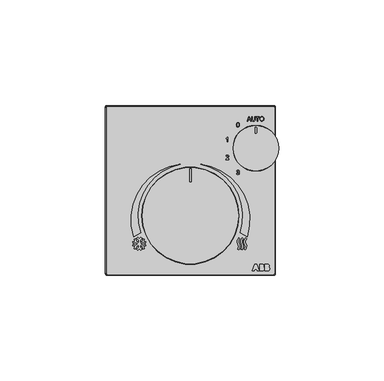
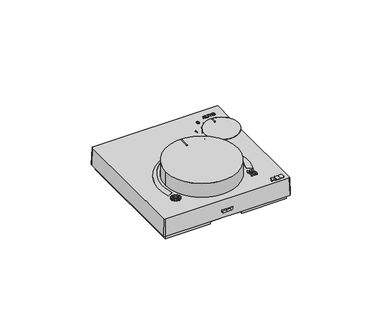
"""IFC4 building model written with IfcOpenShell, lengths in millimetres: proxy geometry, HC_Control Unit_MEPcontent_ABB_ClimaEco Sensors_HVAC-control element_INT-EN : SAF-A1.0.1-24."""

from ifc_helpers import new_model, si_unit, point, frame, frame_2d, origin, place, context, project, spatial, polyline, circle_curve, ellipse_curve, trimmed, segment, composite_curve, outline, extrude, source, transform, mapped, element, save
from ifc_brep_helpers import plane_surface, cylinder_surface, revolved_surface, extruded_surface, advanced_brep


def mechanical_equipment_c57d0791(model_context):
    return source(origin(), model_context, "Body", "SolidModel", [
        extrude(outline(polyline([(30.1395374, -38.0874147), (29.3411068, -38.0874147), (30.4548671, -35.0273837), (31.4091799, -35.0273837), (32.5229401, -38.0874147), (31.7245096, -38.0874147), (31.4567912, -37.3518646), (30.4072557, -37.3518646), (30.1395374, -38.0874147)])), frame((0.0, 0.0, 15.0), z_axis=(0.0, 0.0, 1.0), x_axis=(1.0, 0.0, 0.0)), (0.0, 0.0, 1.0), 0.2),
        extrude(outline(composite_curve([segment(polyline([(32.7806659, -38.0874147), (32.7806659, -35.0273837), (34.1912375, -35.0273837)]), True, "CONTINUOUS"), segment(trimmed(circle_curve(frame_2d((34.1114902, -35.7178804)), 0.6950865), [point((34.1912375, -35.0273837))], [point((34.4548715, -36.3222268))], False, "CARTESIAN"), True, "CONTINUOUS"), segment(trimmed(circle_curve(frame_2d((34.1290819, -37.1923919)), 0.9291534), [point((34.4548715, -36.3222268))], [point((34.3786016, -38.0874147))], False, "CARTESIAN"), True, "CONTINUOUS"), segment(polyline([(34.3786016, -38.0874147), (32.7806659, -38.0874147)]), True, "CONTINUOUS")], self_intersect=False)), frame((0.0, 0.0, 15.0), z_axis=(0.0, 0.0, 1.0), x_axis=(1.0, 0.0, 0.0)), (0.0, 0.0, 1.0), 0.2),
        extrude(outline(composite_curve([segment(polyline([(35.2868063, -38.0874147), (35.2868063, -35.0273837), (36.6973778, -35.0273837)]), True, "CONTINUOUS"), segment(trimmed(circle_curve(frame_2d((36.6176306, -35.7178804)), 0.6950865), [point((36.6973778, -35.0273837))], [point((36.9610118, -36.3222268))], False, "CARTESIAN"), True, "CONTINUOUS"), segment(trimmed(circle_curve(frame_2d((36.6352223, -37.1923919)), 0.9291534), [point((36.9610118, -36.3222268))], [point((36.884742, -38.0874147))], False, "CARTESIAN"), True, "CONTINUOUS"), segment(polyline([(36.884742, -38.0874147), (35.2868063, -38.0874147)]), True, "CONTINUOUS")], self_intersect=False)), frame((0.0, 0.0, 15.0), z_axis=(0.0, 0.0, 1.0), x_axis=(1.0, 0.0, 0.0)), (0.0, 0.0, 1.0), 0.2),
        advanced_brep(
        [(-32.2072575, 32.2146452, 2.2270347), (-33.7072575, 32.2146452, 2.2270347), (-30.7072575, 32.2146452, 2.2270347), (-33.7072575, 32.2146452, 0.5), (-30.7072575, 32.2146452, 0.5), (-32.2072575, 32.2146452, -0.0008148)],
        [
            (0, 1),
            (1, 2, circle_curve(frame((-32.2072575, 32.2146452, 2.2270347), z_axis=(0.0, 0.0, 1.0), x_axis=(-1.0, 0.0, 0.0)), 1.5)),
            (2, 0),
            (2, 1, circle_curve(frame((-32.2072575, 32.2146452, 2.2270347), z_axis=(0.0, 0.0, 1.0), x_axis=(-1.0, 0.0, 0.0)), 1.5)),
            (1, 3),
            (3, 4, circle_curve(frame((-32.2072575, 32.2146452, 0.5), z_axis=(0.0, 0.0, 1.0), x_axis=(-1.0, 0.0, 0.0)), 1.5)),
            (4, 2),
            (4, 3, circle_curve(frame((-32.2072575, 32.2146452, 0.5), z_axis=(0.0, 0.0, 1.0), x_axis=(-1.0, 0.0, 0.0)), 1.5)),
            (3, 5, circle_curve(frame((-32.2072575, 32.2146452, 2.495932), z_axis=(0.0, -1.0, 0.0), x_axis=(1.0, 0.0, 0.0)), 2.4967468)),
            (5, 4, circle_curve(frame((-32.2072575, 32.2146452, 2.495932), z_axis=(0.0, -1.0, 0.0), x_axis=(-1.0, 0.0, 0.0)), 2.4967468)),
        ],
        [
            plane_surface(frame((-32.2072575, 32.2146452, 2.2270347), z_axis=(0.0, 0.0, 1.0), x_axis=(-1.0, 0.0, 0.0))),
            cylinder_surface(frame((-32.2072575, 32.2146452, 1.1131099), z_axis=(0.0, 0.0, 1.0), x_axis=(-1.0, 0.0, 0.0)), 1.5),
            revolved_surface(trimmed(ellipse_curve(frame((-32.2072575, 32.2146452, 2.495932), z_axis=(0.0, 1.0, 0.0), x_axis=(1.0, 0.0, 0.0)), 2.4967468, 2.4967468), [point((-32.2072575, 32.2146452, -0.0008148))], [point((-33.7072575, 32.2146452, 0.5))], True, "CARTESIAN"), (-32.2072575, 32.2146452, 1.1131099), (0.0, 0.0, 1.0)),
        ],
        [
            (0, [[1, 2, 3]]),
            (0, [[-3, 4, -1]]),
            (1, [[-2, 5, 6, 7]]),
            (1, [[-4, -7, 8, -5]]),
            (2, [[-6, 9, 10]]),
            (2, [[-8, -10, -9]]),
        ],
    ),
        advanced_brep(
        [(30.7072575, 32.2146452, 2.2270347), (33.7072575, 32.2146452, 2.2270347), (32.2072575, 32.2146452, 2.2270347), (30.7072575, 32.2146452, 0.5), (33.7072575, 32.2146452, 0.5), (32.2072575, 32.2146452, -0.0008148)],
        [
            (0, 1, circle_curve(frame((32.2072575, 32.2146452, 2.2270347), z_axis=(0.0, 0.0, 1.0), x_axis=(1.0, 0.0, 0.0)), 1.5)),
            (1, 2),
            (2, 0),
            (1, 0, circle_curve(frame((32.2072575, 32.2146452, 2.2270347), z_axis=(0.0, 0.0, 1.0), x_axis=(1.0, 0.0, 0.0)), 1.5)),
            (3, 4, circle_curve(frame((32.2072575, 32.2146452, 0.5), z_axis=(0.0, 0.0, 1.0), x_axis=(1.0, 0.0, 0.0)), 1.5)),
            (4, 1),
            (0, 3),
            (4, 3, circle_curve(frame((32.2072575, 32.2146452, 0.5), z_axis=(0.0, 0.0, 1.0), x_axis=(1.0, 0.0, 0.0)), 1.5)),
            (5, 4, circle_curve(frame((32.2072575, 32.2146452, 2.495932), z_axis=(0.0, -1.0, 0.0), x_axis=(-1.0, 0.0, 0.0)), 2.4967468)),
            (3, 5, circle_curve(frame((32.2072575, 32.2146452, 2.495932), z_axis=(0.0, -1.0, 0.0), x_axis=(1.0, 0.0, 0.0)), 2.4967468)),
        ],
        [
            plane_surface(frame((32.2072575, 32.2146452, 2.2270347), z_axis=(0.0, 0.0, 1.0), x_axis=(1.0, 0.0, 0.0))),
            cylinder_surface(frame((32.2072575, 32.2146452, 1.1131099), z_axis=(0.0, 0.0, -1.0), x_axis=(1.0, 0.0, 0.0)), 1.5),
            revolved_surface(trimmed(ellipse_curve(frame((32.2072575, 32.2146452, 2.495932), z_axis=(0.0, 1.0, 0.0), x_axis=(-1.0, 0.0, 0.0)), 2.4967468, 2.4967468), [point((33.7072575, 32.2146452, 0.5))], [point((32.2072575, 32.2146452, -0.0008148))], True, "CARTESIAN"), (32.2072575, 32.2146452, 1.1131099), (0.0, 0.0, -1.0)),
        ],
        [
            (0, [[1, 2, 3]]),
            (0, [[4, -3, -2]]),
            (1, [[5, 6, -1, 7]]),
            (1, [[8, -7, -4, -6]]),
            (2, [[9, -5, 10]]),
            (2, [[-10, -8, -9]]),
        ],
    ),
        advanced_brep(
        [(32.2072575, -32.2146452, 2.2270347), (33.7072575, -32.2146452, 2.2270347), (30.7072575, -32.2146452, 2.2270347), (33.7072575, -32.2146452, 0.5), (30.7072575, -32.2146452, 0.5), (32.2072575, -32.2146452, -0.0008148)],
        [
            (0, 1),
            (1, 2, circle_curve(frame((32.2072575, -32.2146452, 2.2270347), z_axis=(0.0, 0.0, 1.0), x_axis=(1.0, 0.0, 0.0)), 1.5)),
            (2, 0),
            (2, 1, circle_curve(frame((32.2072575, -32.2146452, 2.2270347), z_axis=(0.0, 0.0, 1.0), x_axis=(1.0, 0.0, 0.0)), 1.5)),
            (1, 3),
            (3, 4, circle_curve(frame((32.2072575, -32.2146452, 0.5), z_axis=(0.0, 0.0, 1.0), x_axis=(1.0, 0.0, 0.0)), 1.5)),
            (4, 2),
            (4, 3, circle_curve(frame((32.2072575, -32.2146452, 0.5), z_axis=(0.0, 0.0, 1.0), x_axis=(1.0, 0.0, 0.0)), 1.5)),
            (3, 5, circle_curve(frame((32.2072575, -32.2146452, 2.495932), z_axis=(0.0, 1.0, 0.0), x_axis=(-1.0, 0.0, 0.0)), 2.4967468)),
            (5, 4, circle_curve(frame((32.2072575, -32.2146452, 2.495932), z_axis=(0.0, 1.0, 0.0), x_axis=(1.0, 0.0, 0.0)), 2.4967468)),
        ],
        [
            plane_surface(frame((32.2072575, -32.2146452, 2.2270347), z_axis=(0.0, 0.0, 1.0), x_axis=(1.0, 0.0, 0.0))),
            cylinder_surface(frame((32.2072575, -32.2146452, 1.1131099), z_axis=(0.0, 0.0, 1.0), x_axis=(1.0, 0.0, 0.0)), 1.5),
            revolved_surface(trimmed(ellipse_curve(frame((32.2072575, -32.2146452, 2.495932), z_axis=(0.0, -1.0, 0.0), x_axis=(-1.0, 0.0, 0.0)), 2.4967468, 2.4967468), [point((32.2072575, -32.2146452, -0.0008148))], [point((33.7072575, -32.2146452, 0.5))], True, "CARTESIAN"), (32.2072575, -32.2146452, 1.1131099), (0.0, 0.0, 1.0)),
        ],
        [
            (0, [[1, 2, 3]]),
            (0, [[-3, 4, -1]]),
            (1, [[-2, 5, 6, 7]]),
            (1, [[-4, -7, 8, -5]]),
            (2, [[-6, 9, 10]]),
            (2, [[-8, -10, -9]]),
        ],
    ),
        extrude(outline(polyline([(32.8683948, 33.9226884), (32.9386971, 34.3891812), (33.0265749, 34.5798406), (33.1496038, 34.7421088), (33.4716293, 34.9642175), (33.8752878, 35.0382538), (34.1519903, 35.0034889), (34.4001083, 34.8991944), (34.6061222, 34.7327094), (34.7565124, 34.5113732), (34.8484461, 34.2458727), (34.8790906, 33.946895), (34.8468366, 33.6439258), (34.7500744, 33.3746914), (34.5941476, 33.1529689), (34.3843997, 32.9925356), (34.1384062, 32.895194), (33.8737427, 32.8627468), (33.5927912, 32.8986061), (33.3432569, 33.006184), (33.137758, 33.1757592), (32.9889129, 33.3976104), (32.8985243, 33.6528746), (32.8683948, 33.9226884)]), holes=[polyline([(33.1320926, 33.9201132), (33.1848193, 33.5901047), (33.3429994, 33.338639), (33.5807523, 33.1794932), (33.8721976, 33.1264446), (34.167892, 33.1800082), (34.4060312, 33.3406991), (34.5630524, 33.5998903), (34.6153928, 33.9489552), (34.5929888, 34.1823947), (34.5257768, 34.3841596), (34.4154949, 34.5491639), (34.2638816, 34.6723215), (34.0809798, 34.7489974), (33.8768329, 34.774556), (33.5931775, 34.7253058), (33.3520125, 34.5775551), (33.1870726, 34.3146943), (33.1320926, 33.9201132)])]), frame((0.0, 0.0, 15.0), z_axis=(0.0, 0.0, 1.0), x_axis=(1.0, 0.0, 0.0)), (0.0, 0.0, 1.0), 0.028),
        extrude(outline(polyline([(31.7147169, 32.895709), (31.7147169, 34.7415937), (31.0225101, 34.7415937), (31.0225101, 35.0052915), (32.6706214, 35.0052915), (32.6706214, 34.7415937), (31.9784147, 34.7415937), (31.9784147, 32.895709), (31.7147169, 32.895709)])), frame((0.0, 0.0, 15.0), z_axis=(0.0, 0.0, 1.0), x_axis=(1.0, 0.0, 0.0)), (0.0, 0.0, 1.0), 0.028),
        extrude(outline(polyline([(30.4621523, 35.0052915), (30.7258501, 35.0052915), (30.7258501, 33.7882643), (30.7079526, 33.5032569), (30.6542602, 33.2837877), (30.5539572, 33.1144701), (30.3962278, 32.9799172), (30.1806857, 32.8920394), (29.9069447, 32.8627468), (29.639191, 32.888241), (29.4251297, 32.9647237), (29.2646964, 33.0895552), (29.1578266, 33.2600961), (29.0977607, 33.488836), (29.0777387, 33.7882643), (29.0777387, 35.0052915), (29.3414365, 35.0052915), (29.3414365, 33.797535), (29.3934551, 33.3955503), (29.4641436, 33.281277), (29.5721721, 33.1964893), (29.8822231, 33.1264446), (30.1504274, 33.1610807), (30.3287582, 33.264989), (30.4288037, 33.4673976), (30.4621523, 33.797535), (30.4621523, 35.0052915)])), frame((0.0, 0.0, 15.0), z_axis=(0.0, 0.0, 1.0), x_axis=(1.0, 0.0, 0.0)), (0.0, 0.0, 1.0), 0.028),
        extrude(outline(polyline([(26.8872958, 32.895709), (27.7293776, 35.0052915), (27.9539328, 35.0052915), (28.7960147, 32.895709), (28.5173809, 32.895709), (28.2758296, 33.5549536), (27.4069659, 33.5549536), (27.1659296, 32.895709), (26.8872958, 32.895709)]), holes=[polyline([(27.5037924, 33.8186514), (28.179518, 33.8186514), (27.9894702, 34.3372914), (27.8416552, 34.7415937), (27.7103214, 34.3826145), (27.5037924, 33.8186514)])]), frame((0.0, 0.0, 15.0), z_axis=(0.0, 0.0, 1.0), x_axis=(1.0, 0.0, 0.0)), (0.0, 0.0, 1.0), 0.028),
        extrude(outline(polyline([(21.8227289, 31.1110444), (21.8421071, 31.4487141), (21.9002417, 31.7180129), (21.9965532, 31.9230611), (22.1304622, 32.067979), (22.3029345, 32.1541186), (22.5149357, 32.1828318), (22.8229265, 32.1148472), (23.0356359, 31.9188765), (23.1592442, 31.6067654), (23.2071424, 31.1110444), (23.1879574, 30.7753061), (23.1304023, 30.5066511), (23.0346702, 30.3014097), (22.9009543, 30.1559124), (22.7280957, 30.0691934), (22.5149357, 30.0402871), (22.2409372, 30.0905029), (22.0328631, 30.2411506), (21.8752625, 30.597941), (21.8227289, 31.1110444)]), holes=[polyline([(22.0864267, 31.1115594), (22.1173288, 30.6967633), (22.2100351, 30.4566927), (22.3480644, 30.3421618), (22.5149357, 30.3039849), (22.681807, 30.3422906), (22.8198363, 30.4572077), (22.9125425, 30.6974071), (22.9434446, 31.1115594), (22.9135726, 31.5170206), (22.8239566, 31.7589582), (22.6861847, 31.87909), (22.5118455, 31.919134), (22.3467768, 31.8838541), (22.2141554, 31.7780144), (22.1183589, 31.5210121), (22.0864267, 31.1115594)])]), frame((0.0, 0.0, 15.0), z_axis=(0.0, 0.0, 1.0), x_axis=(1.0, 0.0, 0.0)), (0.0, 0.0, 1.0), 0.028),
        extrude(outline(polyline([(17.7363442, 23.0909204), (17.4726464, 23.0909204), (17.4726464, 24.7349115), (17.2228545, 24.556967), (16.9452508, 24.4238305), (16.9452508, 24.6731073), (17.3317844, 24.919809), (17.5663827, 25.2005029), (17.7363442, 25.2005029), (17.7363442, 23.0909204)])), frame((0.0, 0.0, 15.0), z_axis=(0.0, 0.0, 1.0), x_axis=(1.0, 0.0, 0.0)), (0.0, 0.0, 1.0), 0.028),
        extrude(outline(polyline([(18.246915, 14.894953), (18.246915, 14.6312552), (16.8625015, 14.6312552), (16.8908284, 14.8130625), (17.0510042, 15.0929839), (17.3811415, 15.398657), (17.8364323, 15.8379817), (17.9217993, 15.9894019), (17.950255, 16.1367019), (17.9234088, 16.2687439), (17.8428702, 16.3785107), (17.7190687, 16.4524826), (17.5624338, 16.4771399), (17.3979445, 16.453062), (17.2701515, 16.3808284), (17.1876816, 16.2661044), (17.1591615, 16.1145554), (16.8954637, 16.1475176), (16.9593924, 16.4025886), (17.0976149, 16.5889024), (17.3029206, 16.7028539), (17.5680992, 16.7408377), (17.8352091, 16.6986048), (18.0401286, 16.5719063), (18.1704967, 16.382631), (18.2139528, 16.1526679), (18.1670846, 15.9026186), (18.0112866, 15.6440711), (17.6335086, 15.2827742), (17.3301531, 15.0291195), (17.2111801, 14.894953), (18.246915, 14.894953)])), frame((0.0, 0.0, 15.0), z_axis=(0.0, 0.0, 1.0), x_axis=(1.0, 0.0, 0.0)), (0.0, 0.0, 1.0), 0.028),
        extrude(outline(polyline([(21.8655865, 8.1249013), (22.1292844, 8.1578636), (22.1883202, 7.9921511), (22.2747817, 7.8802598), (22.3929178, 7.8165243), (22.5469776, 7.7952791), (22.7277548, 7.8245073), (22.8673292, 7.912192), (22.956559, 8.0430108), (22.9863023, 8.2016415), (22.9568165, 8.3522248), (22.8683593, 8.4743524), (22.7344502, 8.5552773), (22.568609, 8.5822522), (22.3837115, 8.5534103), (22.4130685, 8.8171081), (22.4553014, 8.8140179), (22.7545366, 8.889728), (22.8541958, 8.985782), (22.8874156, 9.1225237), (22.8633377, 9.2364108), (22.7911041, 9.3287952), (22.6808866, 9.3900199), (22.5428573, 9.4104282), (22.4045705, 9.3898268), (22.2915203, 9.3280226), (22.208986, 9.2250157), (22.1622466, 9.0808059), (21.8985488, 9.1137681), (21.9761903, 9.3505554), (22.1143484, 9.5273411), (22.3033661, 9.6374298), (22.5335867, 9.674126), (22.8516207, 9.6017636), (23.0741157, 9.4039902), (23.1511134, 9.1379748), (23.0779785, 8.8948784), (22.8616638, 8.7202816), (23.0267325, 8.6535846), (23.1490533, 8.5400194), (23.2247634, 8.3857665), (23.2500001, 8.1970062), (23.1995267, 7.9400038), (23.0481064, 7.7252343), (22.8195597, 7.5799945), (22.537707, 7.5315813), (22.2827647, 7.5729128), (22.0752057, 7.6969074), (21.9308672, 7.886569), (21.8655865, 8.1249013)])), frame((0.0, 0.0, 15.0), z_axis=(0.0, 0.0, 1.0), x_axis=(1.0, 0.0, 0.0)), (0.0, 0.0, 1.0), 0.028),
        advanced_brep(
        [(20.25, 20.0, 15.0), (41.75, 20.0, 15.0), (30.6784982, 27.4498501, 15.0), (30.6784982, 29.6586817, 15.0), (31.3215018, 29.6586817, 15.0), (31.3215018, 27.4498501, 15.0), (20.25, 20.0, 11.6652777), (41.75, 20.0, 11.6652777), (30.6784982, 29.6586817, 15.2), (30.6784982, 27.4498501, 15.2), (31.3215018, 27.4498501, 15.2), (31.3215018, 29.6586817, 15.2)],
        [
            (0, 1, circle_curve(frame((31.0, 20.0, 15.0), z_axis=(0.0, 0.0, 1.0), x_axis=(1.0, 0.0, 0.0)), 10.75)),
            (1, 0, circle_curve(frame((31.0, 20.0, 15.0), z_axis=(0.0, 0.0, 1.0), x_axis=(1.0, 0.0, 0.0)), 10.75)),
            (2, 3),
            (3, 4, circle_curve(frame((31.0, 29.6586817, 15.0), z_axis=(0.0, 0.0, -1.0), x_axis=(1.0, 0.0, 0.0)), 0.3215018)),
            (4, 5),
            (5, 2, circle_curve(frame((31.0, 27.4498501, 15.0), z_axis=(0.0, 0.0, -1.0), x_axis=(1.0, 0.0, 0.0)), 0.3215018)),
            (6, 7, circle_curve(frame((31.0, 20.0, 11.6652777), z_axis=(0.0, 0.0, -1.0), x_axis=(1.0, 0.0, 0.0)), 10.75)),
            (7, 6, circle_curve(frame((31.0, 20.0, 11.6652777), z_axis=(0.0, 0.0, -1.0), x_axis=(1.0, 0.0, 0.0)), 10.75)),
            (0, 6),
            (7, 1),
            (8, 9),
            (9, 10, circle_curve(frame((31.0, 27.4498501, 15.2), z_axis=(0.0, 0.0, 1.0), x_axis=(1.0, 0.0, 0.0)), 0.3215018)),
            (10, 11),
            (11, 8, circle_curve(frame((31.0, 29.6586817, 15.2), z_axis=(0.0, 0.0, 1.0), x_axis=(1.0, 0.0, 0.0)), 0.3215018)),
            (8, 3),
            (2, 9),
            (5, 10),
            (4, 11),
        ],
        [
            plane_surface(frame((41.75, 20.0, 15.0), z_axis=(0.0, 0.0, 1.0), x_axis=(0.0, 1.0, 0.0))),
            plane_surface(frame((41.75, 20.0, 11.6652777), z_axis=(0.0, 0.0, -1.0), x_axis=(0.0, -1.0, 0.0))),
            cylinder_surface(frame((31.0, 20.0, 11.6652777), z_axis=(0.0, 0.0, 1.0), x_axis=(1.0, 0.0, 0.0)), 10.75),
            plane_surface(frame((30.6784982, 29.5047466, 15.2), z_axis=(0.0, 0.0, 1.0), x_axis=(0.0, -1.0, 0.0))),
            plane_surface(frame((30.6784982, 29.6586817, 15.2), z_axis=(-1.0, 0.0, 0.0), x_axis=(0.0, 0.0, -1.0))),
            cylinder_surface(frame((31.0, 27.4498501, 15.0), z_axis=(0.0, 0.0, 1.0), x_axis=(1.0, 0.0, 0.0)), 0.3215018),
            plane_surface(frame((31.3215018, 27.4498501, 15.2), z_axis=(1.0, 0.0, 0.0), x_axis=(0.0, 0.0, -1.0))),
            cylinder_surface(frame((31.0, 29.6586817, 15.0), z_axis=(0.0, 0.0, 1.0), x_axis=(1.0, 0.0, 0.0)), 0.3215018),
        ],
        [
            (0, [[1, 2], [3, 4, 5, 6]]),
            (1, [[7, 8]]),
            (2, [[-1, 9, -8, 10]]),
            (2, [[-2, -10, -7, -9]]),
            (3, [[11, 12, 13, 14]]),
            (4, [[-11, 15, -3, 16]]),
            (5, [[-12, -16, -6, 17]]),
            (6, [[-13, -17, -5, 18]]),
            (7, [[-14, -18, -4, -15]]),
        ],
    ),
        extrude(outline(polyline([(-24.5497407, -23.6691987), (-25.4936645, -22.7252748), (-24.9693753, -22.2009856), (-24.2203908, -22.9499701), (-23.4714062, -22.2009856), (-22.947117, -22.7252748), (-23.8910409, -23.6691987), (-23.8910409, -24.7627737), (-22.9439771, -24.2159862), (-22.598477, -22.9265622), (-21.8822846, -23.1184654), (-22.156432, -24.1415973), (-21.1333, -24.4157447), (-21.3252032, -25.1319371), (-22.6146272, -24.7864369), (-23.561691, -25.3332245), (-22.6146272, -25.880012), (-21.3252032, -25.5345119), (-21.1333, -26.2507042), (-22.156432, -26.5248516), (-21.8822846, -27.5479836), (-22.598477, -27.7398868), (-22.9439771, -26.4504627), (-23.8910409, -25.9036752), (-23.8910409, -26.9972503), (-22.947117, -27.9411742), (-23.4714062, -28.4654634), (-24.2203908, -27.7164788), (-24.9693753, -28.4654634), (-25.4936645, -27.9411742), (-24.5497407, -26.9972503), (-24.5497407, -25.9036752), (-25.4968044, -26.4504627), (-25.8423046, -27.7398868), (-26.5584969, -27.5479836), (-26.2843496, -26.5248516), (-27.3074815, -26.2507042), (-27.1155783, -25.5345119), (-25.8261543, -25.880012), (-24.8790905, -25.3332245), (-25.8261543, -24.7864369), (-27.1155783, -25.1319371), (-27.3074815, -24.4157447), (-26.2843496, -24.1415973), (-26.5584969, -23.1184654), (-25.8423046, -22.9265622), (-25.4968044, -24.2159862), (-24.5497407, -24.7627737), (-24.5497407, -23.6691987)])), frame((0.0, 0.0, 15.0), z_axis=(0.0, 0.0, 1.0), x_axis=(1.0, 0.0, 0.0)), (0.0, 0.0, 1.0), 0.0211845),
        extrude(outline(composite_curve([segment(polyline([(26.6030916, -22.8348686), (26.1309504, -23.6526411)]), True, "CONTINUOUS"), segment(trimmed(circle_curve(frame_2d((27.0216876, -24.1669085)), 1.0285347), [point((26.1309504, -23.6526411))], [point((26.0749164, -24.568789))], True, "CARTESIAN"), True, "CONTINUOUS"), segment(polyline([(26.0749164, -24.568789), (26.4319256, -25.4098501)]), True, "CONTINUOUS"), segment(trimmed(circle_curve(frame_2d((24.0649976, -26.4145514)), 2.5713368), [point((26.4319256, -25.4098501))], [point((26.3954202, -27.5012453))], False, "CARTESIAN"), True, "CONTINUOUS"), segment(polyline([(26.3954202, -27.5012453), (26.0823386, -28.1726508), (25.4885138, -27.8298059), (25.775382, -27.2146151)]), True, "CONTINUOUS"), segment(trimmed(circle_curve(frame_2d((24.221767, -26.4901525)), 1.7142245), [point((25.775382, -27.2146151))], [point((25.8425981, -25.9320556))], True, "CARTESIAN"), True, "CONTINUOUS"), segment(polyline([(25.8425981, -25.9320556), (25.3531664, -24.5106428)]), True, "CONTINUOUS"), segment(trimmed(circle_curve(frame_2d((26.4877482, -24.119975)), 1.1999572), [point((25.3531664, -24.5106428))], [point((25.4485548, -23.5199964))], False, "CARTESIAN"), True, "CONTINUOUS"), segment(polyline([(25.4485548, -23.5199964), (26.1219188, -22.3536958), (26.6030916, -22.8348686)]), True, "CONTINUOUS")], self_intersect=False)), frame((0.0, 0.0, 15.0), z_axis=(0.0, 0.0, 1.0), x_axis=(1.0, 0.0, 0.0)), (0.0, 0.0, 1.0), 0.0171422),
        extrude(outline(composite_curve([segment(polyline([(25.0602895, -22.8348686), (24.5881483, -23.6526411)]), True, "CONTINUOUS"), segment(trimmed(circle_curve(frame_2d((25.4788855, -24.1669085)), 1.0285347), [point((24.5881483, -23.6526411))], [point((24.5321143, -24.568789))], True, "CARTESIAN"), True, "CONTINUOUS"), segment(polyline([(24.5321143, -24.568789), (24.8891235, -25.4098501)]), True, "CONTINUOUS"), segment(trimmed(circle_curve(frame_2d((22.5221956, -26.4145514)), 2.5713368), [point((24.8891235, -25.4098501))], [point((24.8526181, -27.5012453))], False, "CARTESIAN"), True, "CONTINUOUS"), segment(polyline([(24.8526181, -27.5012453), (24.5395365, -28.1726508), (23.9457118, -27.8298059), (24.2325799, -27.2146151)]), True, "CONTINUOUS"), segment(trimmed(circle_curve(frame_2d((22.6789649, -26.4901525)), 1.7142245), [point((24.2325799, -27.2146151))], [point((24.299796, -25.9320556))], True, "CARTESIAN"), True, "CONTINUOUS"), segment(polyline([(24.299796, -25.9320556), (23.8103644, -24.5106428)]), True, "CONTINUOUS"), segment(trimmed(circle_curve(frame_2d((24.9449461, -24.119975)), 1.1999572), [point((23.8103644, -24.5106428))], [point((23.9057528, -23.5199964))], False, "CARTESIAN"), True, "CONTINUOUS"), segment(polyline([(23.9057528, -23.5199964), (24.5791167, -22.3536958), (25.0602895, -22.8348686)]), True, "CONTINUOUS")], self_intersect=False)), frame((0.0, 0.0, 15.0), z_axis=(0.0, 0.0, 1.0), x_axis=(1.0, 0.0, 0.0)), (0.0, 0.0, 1.0), 0.0171422),
        extrude(outline(composite_curve([segment(polyline([(23.4715817, -22.8348686), (22.9994406, -23.6526411)]), True, "CONTINUOUS"), segment(trimmed(circle_curve(frame_2d((23.8901778, -24.1669085)), 1.0285347), [point((22.9994406, -23.6526411))], [point((22.9434066, -24.568789))], True, "CARTESIAN"), True, "CONTINUOUS"), segment(polyline([(22.9434066, -24.568789), (23.3004158, -25.4098501)]), True, "CONTINUOUS"), segment(trimmed(circle_curve(frame_2d((20.9334878, -26.4145514)), 2.5713368), [point((23.3004158, -25.4098501))], [point((23.2639104, -27.5012453))], False, "CARTESIAN"), True, "CONTINUOUS"), segment(polyline([(23.2639104, -27.5012453), (22.9508288, -28.1726508), (22.357004, -27.8298059), (22.6438722, -27.2146151)]), True, "CONTINUOUS"), segment(trimmed(circle_curve(frame_2d((21.0902572, -26.4901525)), 1.7142245), [point((22.6438722, -27.2146151))], [point((22.7110883, -25.9320556))], True, "CARTESIAN"), True, "CONTINUOUS"), segment(polyline([(22.7110883, -25.9320556), (22.2216566, -24.5106428)]), True, "CONTINUOUS"), segment(trimmed(circle_curve(frame_2d((23.3562384, -24.119975)), 1.1999572), [point((22.2216566, -24.5106428))], [point((22.317045, -23.5199964))], False, "CARTESIAN"), True, "CONTINUOUS"), segment(polyline([(22.317045, -23.5199964), (22.9904089, -22.3536958), (23.4715817, -22.8348686)]), True, "CONTINUOUS")], self_intersect=False)), frame((0.0, 0.0, 15.0), z_axis=(0.0, 0.0, 1.0), x_axis=(1.0, 0.0, 0.0)), (0.0, 0.0, 1.0), 0.0171422),
        extrude(outline(composite_curve([segment(trimmed(circle_curve(frame_2d((-0.0644017, -11.9996651)), 24.8127691), [point((-4.9114906, 12.3350681))], [point((-23.550278, -20.0051087))], True, "CARTESIAN"), True, "CONTINUOUS"), segment(polyline([(-23.550278, -20.0051087), (-26.8580062, -21.8589001)]), True, "CONTINUOUS"), segment(trimmed(circle_curve(frame_2d((-1.9535334, -13.7033066)), 26.205848), [point((-26.8580062, -21.8589001))], [point((-4.9114906, 12.3350681))], False, "CARTESIAN"), True, "CONTINUOUS")], self_intersect=False)), frame((0.0, 0.0, 15.0), z_axis=(0.0, 0.0, 1.0), x_axis=(1.0, 0.0, 0.0)), (0.0, 0.0, 1.0), 0.2),
        extrude(outline(composite_curve([segment(trimmed(circle_curve(frame_2d((1.9535334, -13.7033066)), 26.205848), [point((4.9114906, 12.3350681))], [point((26.8580062, -21.8589001))], False, "CARTESIAN"), True, "CONTINUOUS"), segment(polyline([(26.8580062, -21.8589001), (23.550278, -20.0051087)]), True, "CONTINUOUS"), segment(trimmed(circle_curve(frame_2d((0.0644017, -11.9996651)), 24.8127691), [point((23.550278, -20.0051087))], [point((4.9114906, 12.3350681))], True, "CARTESIAN"), True, "CONTINUOUS")], self_intersect=False)), frame((0.0, 0.0, 15.0), z_axis=(0.0, 0.0, 1.0), x_axis=(1.0, 0.0, 0.0)), (0.0, 0.0, 1.0), 0.2),
        advanced_brep(
        [(-22.8, -12.0, 24.0), (22.8, -12.0, 24.0), (-0.3936632, 4.4266956, 24.0), (-0.3936632, 9.9556605, 24.0), (0.3936632, 9.9556605, 24.0), (0.3936632, 4.4266956, 24.0), (-22.8, -12.0, 12.7801858), (22.8, -12.0, 12.7801858), (-0.3936632, 9.9556605, 24.2), (-0.3936632, 4.4266956, 24.2), (0.3936632, 4.4266956, 24.2), (0.3936632, 9.9556605, 24.2)],
        [
            (0, 1, circle_curve(frame((0.0, -12.0, 24.0), z_axis=(0.0, 0.0, 1.0), x_axis=(1.0, 0.0, 0.0)), 22.8)),
            (1, 0, circle_curve(frame((0.0, -12.0, 24.0), z_axis=(0.0, 0.0, 1.0), x_axis=(1.0, 0.0, 0.0)), 22.8)),
            (2, 3),
            (3, 4, circle_curve(frame((0.0, 9.9556605, 24.0), z_axis=(0.0, 0.0, -1.0), x_axis=(1.0, 0.0, 0.0)), 0.3936632)),
            (4, 5),
            (5, 2, circle_curve(frame((0.0, 4.4266956, 24.0), z_axis=(0.0, 0.0, -1.0), x_axis=(1.0, 0.0, 0.0)), 0.3936632)),
            (6, 7, circle_curve(frame((0.0, -12.0, 12.7801858), z_axis=(0.0, 0.0, -1.0), x_axis=(1.0, 0.0, 0.0)), 22.8)),
            (7, 6, circle_curve(frame((0.0, -12.0, 12.7801858), z_axis=(0.0, 0.0, -1.0), x_axis=(1.0, 0.0, 0.0)), 22.8)),
            (0, 6),
            (7, 1),
            (8, 9),
            (9, 10, circle_curve(frame((0.0, 4.4266956, 24.2), z_axis=(0.0, 0.0, 1.0), x_axis=(1.0, 0.0, 0.0)), 0.3936632)),
            (10, 11),
            (11, 8, circle_curve(frame((0.0, 9.9556605, 24.2), z_axis=(0.0, 0.0, 1.0), x_axis=(1.0, 0.0, 0.0)), 0.3936632)),
            (8, 3),
            (2, 9),
            (10, 5),
            (4, 11),
        ],
        [
            plane_surface(frame((22.8, -12.0, 24.0), z_axis=(0.0, 0.0, 1.0), x_axis=(0.0, 1.0, 0.0))),
            plane_surface(frame((22.8, -12.0, 12.7801858), z_axis=(0.0, 0.0, -1.0), x_axis=(0.0, -1.0, 0.0))),
            cylinder_surface(frame((0.0, -12.0, 12.7801858), z_axis=(0.0, 0.0, 1.0), x_axis=(1.0, 0.0, 0.0)), 22.8),
            plane_surface(frame((-0.3936632, 9.8017254, 24.2), z_axis=(0.0, 0.0, 1.0), x_axis=(-3.398734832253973e-12, -1.0, 0.0))),
            plane_surface(frame((-0.3936632, 9.9556605, 24.2), z_axis=(-1.0, 3.398734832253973e-12, 0.0), x_axis=(0.0, 0.0, -1.0))),
            plane_surface(frame((0.3936632, 4.4266956, 24.2), z_axis=(1.0, 0.0, 0.0), x_axis=(0.0, 0.0, -1.0))),
            cylinder_surface(frame((0.0, 4.4266956, 24.0), z_axis=(0.0, 0.0, 1.0), x_axis=(1.0, 0.0, 0.0)), 0.3936632),
            cylinder_surface(frame((0.0, 9.9556605, 24.0), z_axis=(0.0, 0.0, 1.0), x_axis=(1.0, 0.0, 0.0)), 0.3936632),
        ],
        [
            (0, [[1, 2], [3, 4, 5, 6]]),
            (1, [[7, 8]]),
            (2, [[-1, 9, -8, 10]]),
            (2, [[-2, -10, -7, -9]]),
            (3, [[11, 12, 13, 14]]),
            (4, [[-11, 15, -3, 16]]),
            (5, [[-13, 17, -5, 18]]),
            (6, [[-12, -16, -6, -17]]),
            (7, [[-14, -18, -4, -15]]),
        ],
    ),
        advanced_brep(
        [(38.5, 38.5, 3.5), (-38.5, 38.5, 3.5), (-38.5, -38.5, 3.5), (38.5, -38.5, 3.5), (38.5, 38.5, 0.5), (38.5, -38.5, 0.5), (10.0, -38.5, 0.5), (10.0, -36.7969656, 0.5), (0.0, -36.7969656, 0.5), (-10.0, -36.7969656, 0.5), (-10.0, -38.5, 0.5), (-38.5, -38.5, 0.5), (-38.5, 38.5, 0.5), (-10.0, 38.5, 0.5), (-10.0, 36.7991255, 0.5), (0.0, 36.7991255, 0.5), (10.0, 36.7991255, 0.5), (10.0, 38.5, 0.5), (-30.7072575, -32.2146452, 0.5), (-33.7072575, -32.2146452, 0.5), (-1.7419263, 29.3181061, 0.5), (5.6819512, 28.126175, 0.5), (6.0257277, 31.5345399, 0.5), (-1.6434937, 32.4010337, 0.5), (1.7419263, -29.3159462, 0.5), (-5.6819512, -28.124015, 0.5), (-6.0257277, -31.5323799, 0.5), (1.6434937, -32.3988737, 0.5), (-25.3297969, 29.2002358, 0.5), (-19.4829719, 29.2002358, 0.5), (-19.4829719, 32.7002358, 0.5), (-25.3297969, 32.7002358, 0.5), (24.4804593, -27.4654124, 0.5), (24.4804593, -33.3122374, 0.5), (27.9804593, -33.3122374, 0.5), (27.9804593, -27.4654124, 0.5), (-18.4071763, 6.5973618, 0.5), (-2.4071763, 6.5973618, 0.5), (10.0, 38.5, 2.726366), (-10.0, 38.5, 2.726366), (-10.0, -38.5, 2.726366), (10.0, -38.5, 2.726366), (-32.2072575, -32.2146452, -0.0008148), (10.0, 36.7991255, 2.726366), (0.0, 36.7991255, 2.726366), (-10.0, 36.7991255, 2.726366), (-10.0, -36.7969656, 2.726366), (0.0, -36.7969656, 2.726366), (10.0, -36.7969656, 2.726366), (-1.7419263, 29.3181061, 2.726366), (-1.6434937, 32.4010337, 2.726366), (6.0257277, 31.5345399, 2.726366), (5.6819512, 28.126175, 2.726366), (1.7419263, -29.3159462, 2.726366), (1.6434937, -32.3988737, 2.726366), (-6.0257277, -31.5323799, 2.726366), (-5.6819512, -28.124015, 2.726366), (-25.3297969, 29.2002358, 2.726366), (-25.3297969, 32.7002358, 2.726366), (-19.4829719, 32.7002358, 2.726366), (-19.4829719, 29.2002358, 2.726366), (24.4804593, -27.4654124, 2.726366), (27.9804593, -27.4654124, 2.726366), (27.9804593, -33.3122374, 2.726366), (24.4804593, -33.3122374, 2.726366), (-18.4071763, 6.5973618, 2.726366), (-2.4071763, 6.5973618, 2.726366)],
        [
            (0, 1),
            (1, 2),
            (2, 3),
            (3, 0),
            (4, 5),
            (5, 6),
            (6, 7),
            (7, 8),
            (8, 9),
            (9, 10),
            (10, 11),
            (11, 12),
            (12, 13),
            (13, 14),
            (14, 15),
            (15, 16),
            (16, 17),
            (17, 4),
            (18, 19, circle_curve(frame((-32.2072575, -32.2146452, 0.5), z_axis=(0.0, 0.0, 1.0), x_axis=(-1.0, 0.0, 0.0)), 1.5)),
            (19, 18, circle_curve(frame((-32.2072575, -32.2146452, 0.5), z_axis=(0.0, 0.0, 1.0), x_axis=(-1.0, 0.0, 0.0)), 1.5)),
            (20, 21, circle_curve(frame((-6.96952, -26.957244, 0.5), z_axis=(0.0, 0.0, -1.0), x_axis=(1.0, 0.0, 0.0)), 56.5176324)),
            (21, 22, circle_curve(frame((5.4968796, 29.8663613, 0.5), z_axis=(0.0, 0.0, 1.0), x_axis=(1.0, 0.0, 0.0)), 1.75)),
            (22, 23, circle_curve(frame((-4.459096, -26.892365, 0.5), z_axis=(0.0, 0.0, 1.0), x_axis=(1.0, 0.0, 0.0)), 59.3602118)),
            (23, 20, circle_curve(frame((-4.2646206, 30.9416866, 0.5), z_axis=(0.0, 0.0, 1.0), x_axis=(1.0, 0.0, 0.0)), 3.0)),
            (24, 25, circle_curve(frame((6.96952, 26.959404, 0.5), z_axis=(0.0, 0.0, -1.0), x_axis=(1.0, 0.0, 0.0)), 56.5176324)),
            (25, 26, circle_curve(frame((-5.4968796, -29.8642014, 0.5), z_axis=(0.0, 0.0, 1.0), x_axis=(1.0, 0.0, 0.0)), 1.75)),
            (26, 27, circle_curve(frame((4.459096, 26.8945249, 0.5), z_axis=(0.0, 0.0, 1.0), x_axis=(1.0, 0.0, 0.0)), 59.3602118)),
            (27, 24, circle_curve(frame((4.2646206, -30.9395266, 0.5), z_axis=(0.0, 0.0, 1.0), x_axis=(1.0, 0.0, 0.0)), 3.0)),
            (28, 29),
            (29, 30, circle_curve(frame((-19.4829719, 30.9502358, 0.5), z_axis=(0.0, 0.0, 1.0), x_axis=(1.0, 0.0, 0.0)), 1.75)),
            (30, 31),
            (31, 28, circle_curve(frame((-25.3297969, 30.9502358, 0.5), z_axis=(0.0, 0.0, 1.0), x_axis=(1.0, 0.0, 0.0)), 1.75)),
            (32, 33),
            (33, 34, circle_curve(frame((26.2304593, -33.3122374, 0.5), z_axis=(0.0, 0.0, 1.0), x_axis=(1.0, 0.0, 0.0)), 1.75)),
            (34, 35),
            (35, 32, circle_curve(frame((26.2304593, -27.4654124, 0.5), z_axis=(0.0, 0.0, 1.0), x_axis=(1.0, 0.0, 0.0)), 1.75)),
            (36, 37, circle_curve(frame((-10.4071763, 6.5973618, 0.5), z_axis=(0.0, 0.0, 1.0), x_axis=(1.0, 0.0, 0.0)), 8.0)),
            (37, 36, circle_curve(frame((-10.4071763, 6.5973618, 0.5), z_axis=(0.0, 0.0, 1.0), x_axis=(1.0, 0.0, 0.0)), 8.0)),
            (0, 4),
            (17, 38),
            (38, 39),
            (39, 13),
            (12, 1),
            (11, 2),
            (10, 40),
            (40, 41),
            (41, 6),
            (5, 3),
            (42, 19, circle_curve(frame((-32.2072575, -32.2146452, 2.495932), z_axis=(0.0, 1.0, 0.0), x_axis=(1.0, 0.0, 0.0)), 2.4967468)),
            (18, 42, circle_curve(frame((-32.2072575, -32.2146452, 2.495932), z_axis=(0.0, 1.0, 0.0), x_axis=(-1.0, 0.0, 0.0)), 2.4967468)),
            (43, 44),
            (44, 45),
            (45, 39),
            (38, 43),
            (46, 47),
            (47, 48),
            (48, 41),
            (40, 46),
            (49, 50, circle_curve(frame((-4.2646206, 30.9416866, 2.726366), z_axis=(0.0, 0.0, -1.0), x_axis=(1.0, 0.0, 0.0)), 3.0)),
            (50, 51, circle_curve(frame((-4.459096, -26.892365, 2.726366), z_axis=(0.0, 0.0, -1.0), x_axis=(1.0, 0.0, 0.0)), 59.3602118)),
            (51, 52, circle_curve(frame((5.4968796, 29.8663613, 2.726366), z_axis=(0.0, 0.0, -1.0), x_axis=(1.0, 0.0, 0.0)), 1.75)),
            (52, 49, circle_curve(frame((-6.96952, -26.957244, 2.726366), z_axis=(0.0, 0.0, 1.0), x_axis=(1.0, 0.0, 0.0)), 56.5176324)),
            (53, 54, circle_curve(frame((4.2646206, -30.9395266, 2.726366), z_axis=(0.0, 0.0, -1.0), x_axis=(1.0, 0.0, 0.0)), 3.0)),
            (54, 55, circle_curve(frame((4.459096, 26.8945249, 2.726366), z_axis=(0.0, 0.0, -1.0), x_axis=(1.0, 0.0, 0.0)), 59.3602118)),
            (55, 56, circle_curve(frame((-5.4968796, -29.8642014, 2.726366), z_axis=(0.0, 0.0, -1.0), x_axis=(1.0, 0.0, 0.0)), 1.75)),
            (56, 53, circle_curve(frame((6.96952, 26.959404, 2.726366), z_axis=(0.0, 0.0, 1.0), x_axis=(1.0, 0.0, 0.0)), 56.5176324)),
            (57, 58, circle_curve(frame((-25.3297969, 30.9502358, 2.726366), z_axis=(0.0, 0.0, -1.0), x_axis=(1.0, 0.0, 0.0)), 1.75)),
            (58, 59),
            (59, 60, circle_curve(frame((-19.4829719, 30.9502358, 2.726366), z_axis=(0.0, 0.0, -1.0), x_axis=(1.0, 0.0, 0.0)), 1.75)),
            (60, 57),
            (61, 62, circle_curve(frame((26.2304593, -27.4654124, 2.726366), z_axis=(0.0, 0.0, -1.0), x_axis=(1.0, 0.0, 0.0)), 1.75)),
            (62, 63),
            (63, 64, circle_curve(frame((26.2304593, -33.3122374, 2.726366), z_axis=(0.0, 0.0, -1.0), x_axis=(1.0, 0.0, 0.0)), 1.75)),
            (64, 61),
            (65, 66, circle_curve(frame((-10.4071763, 6.5973618, 2.726366), z_axis=(0.0, 0.0, -1.0), x_axis=(1.0, 0.0, 0.0)), 8.0)),
            (66, 65, circle_curve(frame((-10.4071763, 6.5973618, 2.726366), z_axis=(0.0, 0.0, -1.0), x_axis=(1.0, 0.0, 0.0)), 8.0)),
            (44, 15),
            (14, 45),
            (43, 16),
            (9, 46),
            (48, 7),
            (47, 8),
            (52, 21),
            (20, 49),
            (51, 22),
            (50, 23),
            (56, 25),
            (24, 53),
            (55, 26),
            (54, 27),
            (60, 29),
            (28, 57),
            (59, 30),
            (58, 31),
            (64, 33),
            (32, 61),
            (63, 34),
            (62, 35),
            (66, 37),
            (36, 65),
        ],
        [
            plane_surface(frame((-38.5, 38.5, 3.5), z_axis=(0.0, 0.0, 1.0), x_axis=(-1.0, 0.0, 0.0))),
            plane_surface(frame((-38.5, 38.5, 0.5), z_axis=(0.0, 0.0, -1.0), x_axis=(1.0, 0.0, 0.0))),
            plane_surface(frame((38.5, 38.5, 3.5), z_axis=(0.0, 1.0, 0.0), x_axis=(0.0, 0.0, -1.0))),
            plane_surface(frame((-38.5, 38.5, 3.5), z_axis=(-1.0, 0.0, 0.0), x_axis=(0.0, 0.0, -1.0))),
            plane_surface(frame((-38.5, -38.5, 3.5), z_axis=(0.0, -1.0, 0.0), x_axis=(0.0, 0.0, -1.0))),
            plane_surface(frame((38.5, -38.5, 3.5), z_axis=(1.0, 0.0, 0.0), x_axis=(0.0, 0.0, -1.0))),
            revolved_surface(trimmed(ellipse_curve(frame((-32.2072575, -32.2146452, 2.495932), z_axis=(0.0, -1.0, 0.0), x_axis=(1.0, 0.0, 0.0)), 2.4967468, 2.4967468), [point((-33.7072575, -32.2146452, 0.5))], [point((-32.2072575, -32.2146452, -0.0008148))], True, "CARTESIAN"), (-32.2072575, -32.2146452, 1.1131099), (0.0, 0.0, -1.0)),
            plane_surface(frame((0.0, 36.7991255, 2.726366), z_axis=(0.0, 0.0, -1.0), x_axis=(1.0, 0.0, 0.0))),
            plane_surface(frame((-10.0, 36.7991255, 2.726366), z_axis=(0.0, 1.0, 0.0), x_axis=(0.0, 0.0, -1.0))),
            plane_surface(frame((0.0, 36.7991255, 2.726366), z_axis=(0.0, 1.0, 0.0), x_axis=(0.0, 0.0, -1.0))),
            plane_surface(frame((10.0, 36.7991255, 2.726366), z_axis=(-1.0, 0.0, 0.0), x_axis=(0.0, 0.0, -1.0))),
            plane_surface(frame((-10.0, 39.1268122, 2.726366), z_axis=(1.0, 0.0, 0.0), x_axis=(0.0, 0.0, -1.0))),
            plane_surface(frame((-10.0, -36.7969656, 2.726366), z_axis=(1.0, 0.0, 0.0), x_axis=(0.0, 0.0, -1.0))),
            plane_surface(frame((10.0, -39.1246523, 2.726366), z_axis=(-1.0, 0.0, 0.0), x_axis=(0.0, 0.0, -1.0))),
            plane_surface(frame((10.0, -36.7969656, 2.726366), z_axis=(0.0, -1.0, 0.0), x_axis=(0.0, 0.0, -1.0))),
            plane_surface(frame((0.0, -36.7969656, 2.726366), z_axis=(0.0, -1.0, 0.0), x_axis=(0.0, 0.0, -1.0))),
            cylinder_surface(frame((-6.96952, -26.957244, 0.0), z_axis=(0.0, 0.0, -1.0), x_axis=(1.0, 0.0, 0.0)), 56.5176324),
            revolved_surface(polyline([(7.2468796, 29.8663613, 2.726366), (7.2468796, 29.8663613, 0.5)]), (5.4968796, 29.8663613, 0.0), (0.0, 0.0, 1.0)),
            revolved_surface(polyline([(54.9011158, -26.892365, 2.726366), (54.9011158, -26.892365, 0.5)]), (-4.459096, -26.892365, 0.0), (0.0, 0.0, 1.0)),
            revolved_surface(polyline([(-1.2646205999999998, 30.9416866, 2.726366), (-1.2646205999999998, 30.9416866, 0.5)]), (-4.2646206, 30.9416866, 0.0), (0.0, 0.0, 1.0)),
            cylinder_surface(frame((6.96952, 26.959404, 0.0), z_axis=(0.0, 0.0, -1.0), x_axis=(1.0, 0.0, 0.0)), 56.5176324),
            revolved_surface(polyline([(-3.7468795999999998, -29.8642014, 2.726366), (-3.7468795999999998, -29.8642014, 0.5)]), (-5.4968796, -29.8642014, 0.0), (0.0, 0.0, 1.0)),
            revolved_surface(polyline([(63.819307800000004, 26.8945249, 2.726366), (63.819307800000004, 26.8945249, 0.5)]), (4.459096, 26.8945249, 0.0), (0.0, 0.0, 1.0)),
            revolved_surface(polyline([(7.2646206, -30.9395266, 2.726366), (7.2646206, -30.9395266, 0.5)]), (4.2646206, -30.9395266, 0.0), (0.0, 0.0, 1.0)),
            plane_surface(frame((-25.3297969, 29.2002358, 2.726366), z_axis=(0.0, 1.0, 0.0), x_axis=(0.0, 0.0, -1.0))),
            revolved_surface(polyline([(-17.7329719, 30.9502358, 2.726366), (-17.7329719, 30.9502358, 0.5)]), (-19.4829719, 30.9502358, 0.0), (0.0, 0.0, 1.0)),
            plane_surface(frame((-19.4829719, 32.7002358, 2.726366), z_axis=(0.0, -1.0, 0.0), x_axis=(0.0, 0.0, -1.0))),
            revolved_surface(polyline([(-23.5797969, 30.9502358, 2.726366), (-23.5797969, 30.9502358, 0.5)]), (-25.3297969, 30.9502358, 0.0), (0.0, 0.0, 1.0)),
            plane_surface(frame((24.4804593, -27.4654124, 2.726366), z_axis=(1.0, 0.0, 0.0), x_axis=(0.0, 0.0, -1.0))),
            revolved_surface(polyline([(27.9804593, -33.3122374, 2.726366), (27.9804593, -33.3122374, 0.5)]), (26.2304593, -33.3122374, 0.0), (0.0, 0.0, 1.0)),
            plane_surface(frame((27.9804593, -33.3122374, 2.726366), z_axis=(-1.0, 0.0, 0.0), x_axis=(0.0, 0.0, -1.0))),
            revolved_surface(polyline([(27.9804593, -27.4654124, 2.726366), (27.9804593, -27.4654124, 0.5)]), (26.2304593, -27.4654124, 0.0), (0.0, 0.0, 1.0)),
            revolved_surface(polyline([(-2.4071762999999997, 6.5973618, 2.726366), (-2.4071762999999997, 6.5973618, 0.5)]), (-10.4071763, 6.5973618, 0.0), (0.0, 0.0, 1.0)),
        ],
        [
            (0, [[1, 2, 3, 4]]),
            (1, [[5, 6, 7, 8, 9, 10, 11, 12, 13, 14, 15, 16, 17, 18], [19, 20], [21, 22, 23, 24], [25, 26, 27, 28], [29, 30, 31, 32], [33, 34, 35, 36], [37, 38]]),
            (2, [[-1, 39, -18, 40, 41, 42, -13, 43]]),
            (3, [[-2, -43, -12, 44]]),
            (4, [[-3, -44, -11, 45, 46, 47, -6, 48]]),
            (5, [[-4, -48, -5, -39]]),
            (6, [[49, -19, 50]]),
            (6, [[-49, -50, -20]]),
            (7, [[51, 52, 53, -41, 54]]),
            (7, [[55, 56, 57, -46, 58]]),
            (7, [[59, 60, 61, 62]]),
            (7, [[63, 64, 65, 66]]),
            (7, [[67, 68, 69, 70]]),
            (7, [[71, 72, 73, 74]]),
            (7, [[75, 76]]),
            (8, [[-52, 77, -15, 78]]),
            (9, [[-51, 79, -16, -77]]),
            (10, [[-54, -40, -17, -79]]),
            (11, [[-53, -78, -14, -42]]),
            (12, [[-58, -45, -10, 80]]),
            (13, [[-57, 81, -7, -47]]),
            (14, [[-56, 82, -8, -81]]),
            (15, [[-55, -80, -9, -82]]),
            (16, [[-62, 83, -21, 84]]),
            (17, [[-61, 85, -22, -83]]),
            (18, [[-60, 86, -23, -85]]),
            (19, [[-59, -84, -24, -86]]),
            (20, [[-66, 87, -25, 88]]),
            (21, [[-65, 89, -26, -87]]),
            (22, [[-64, 90, -27, -89]]),
            (23, [[-63, -88, -28, -90]]),
            (24, [[-70, 91, -29, 92]]),
            (25, [[-69, 93, -30, -91]]),
            (26, [[-68, 94, -31, -93]]),
            (27, [[-67, -92, -32, -94]]),
            (28, [[-74, 95, -33, 96]]),
            (29, [[-73, 97, -34, -95]]),
            (30, [[-72, 98, -35, -97]]),
            (31, [[-71, -96, -36, -98]]),
            (32, [[-76, 99, -37, 100]]),
            (32, [[-75, -100, -38, -99]]),
        ],
    ),
        advanced_brep(
        [(39.25, 39.95, 15.0), (-39.25, 39.95, 15.0), (-39.95, 39.25, 15.0), (-39.95, -39.25, 15.0), (-39.25, -39.95, 15.0), (39.25, -39.95, 15.0), (39.95, -39.25, 15.0), (39.95, 13.6048847, 15.0), (20.0, 20.0, 15.0), (39.95, 26.3951153, 15.0), (39.95, 39.25, 15.0), (23.0, -12.0, 15.0), (-23.0, -12.0, 15.0), (39.55, 40.25, 3.5), (40.25, 39.55, 3.5), (40.25, -39.55, 3.5), (39.55, -40.25, 3.5), (-39.55, -40.25, 3.5), (-40.25, -39.55, 3.5), (-40.25, 39.55, 3.5), (-39.55, 40.25, 3.5), (-3.436584, -40.1441529, 7.5574724), (-3.436584, -40.1195652, 8.5), (0.0, -40.1195652, 8.5), (3.436584, -40.1195652, 8.5), (3.436584, -40.1441529, 7.5574724), (2.6460808, -40.1738796, 6.4179501), (0.0, -40.1738796, 6.4179501), (-2.6460808, -40.1738796, 6.4179501), (40.0369928, 26.2715837, 11.6652777), (40.0369928, 13.7284163, 11.6652777), (-23.0, -12.0, 12.7801858), (23.0, -12.0, 12.7801858), (-3.436584, -38.5, 8.5), (-3.436584, -38.5, 7.5574724), (-2.6460808, -38.5, 6.4179501), (0.0, -38.5, 6.4179501), (2.6460808, -38.5, 6.4179501), (3.436584, -38.5, 7.5574724), (3.436584, -38.5, 8.5), (0.0, -38.5, 8.5), (20.0, 20.0, 11.6652777)],
        [
            (0, 1),
            (1, 2, circle_curve(frame((-39.25, 39.25, 15.0), z_axis=(0.0, 0.0, 1.0), x_axis=(1.0, 0.0, 0.0)), 0.7)),
            (2, 3),
            (3, 4, circle_curve(frame((-39.25, -39.25, 15.0), z_axis=(0.0, 0.0, 1.0), x_axis=(1.0, 0.0, 0.0)), 0.7)),
            (4, 5),
            (5, 6, circle_curve(frame((39.25, -39.25, 15.0), z_axis=(0.0, 0.0, 1.0), x_axis=(1.0, 0.0, 0.0)), 0.7)),
            (6, 7),
            (7, 8, circle_curve(frame((31.0, 20.0, 15.0), z_axis=(0.0, 0.0, -1.0), x_axis=(1.0, 0.0, 0.0)), 11.0)),
            (8, 9, circle_curve(frame((31.0, 20.0, 15.0), z_axis=(0.0, 0.0, -1.0), x_axis=(1.0, 0.0, 0.0)), 11.0)),
            (9, 10),
            (10, 0, circle_curve(frame((39.25, 39.25, 15.0), z_axis=(0.0, 0.0, 1.0), x_axis=(1.0, 0.0, 0.0)), 0.7)),
            (11, 12, circle_curve(frame((0.0, -12.0, 15.0), z_axis=(0.0, 0.0, -1.0), x_axis=(1.0, 0.0, 0.0)), 23.0)),
            (12, 11, circle_curve(frame((0.0, -12.0, 15.0), z_axis=(0.0, 0.0, -1.0), x_axis=(1.0, 0.0, 0.0)), 23.0)),
            (13, 14, circle_curve(frame((39.55, 39.55, 3.5), z_axis=(0.0, 0.0, -1.0), x_axis=(1.0, 0.0, 0.0)), 0.7)),
            (14, 15),
            (15, 16, circle_curve(frame((39.55, -39.55, 3.5), z_axis=(0.0, 0.0, -1.0), x_axis=(1.0, 0.0, 0.0)), 0.7)),
            (16, 17),
            (17, 18, circle_curve(frame((-39.55, -39.55, 3.5), z_axis=(0.0, 0.0, -1.0), x_axis=(1.0, 0.0, 0.0)), 0.7)),
            (18, 19),
            (19, 20, circle_curve(frame((-39.55, 39.55, 3.5), z_axis=(0.0, 0.0, -1.0), x_axis=(1.0, 0.0, 0.0)), 0.7)),
            (20, 13),
            (0, 13),
            (20, 1),
            (19, 2),
            (18, 3),
            (17, 4),
            (16, 5),
            (21, 22),
            (22, 23),
            (23, 24),
            (24, 25),
            (25, 26, ellipse_curve(frame((2.2200131, -40.1441529, 7.5574724), z_axis=(0.0, 0.9996599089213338, -0.02607808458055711), x_axis=(0.0, -0.02607808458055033, -0.9996599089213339)), 1.2169847, 1.2165709)),
            (26, 27),
            (27, 28),
            (28, 21, ellipse_curve(frame((-2.2200131, -40.1441529, 7.5574724), z_axis=(0.0, 0.9996599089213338, -0.02607808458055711), x_axis=(0.0, -0.02607808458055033, -0.9996599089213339)), 1.2169847, 1.2165709)),
            (15, 6),
            (14, 10),
            (9, 29, ellipse_curve(frame((31.0, 20.0, 358.0833333), z_axis=(-0.9996599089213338, 0.0, -0.02607808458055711), x_axis=(-0.026078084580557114, 0.0, 0.9996599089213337)), 421.8101205, 11.0)),
            (29, 30),
            (30, 7, ellipse_curve(frame((31.0, 20.0, 358.0833333), z_axis=(-0.9996599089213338, 0.0, -0.02607808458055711), x_axis=(-0.026078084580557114, 0.0, 0.9996599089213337)), 421.8101205, 11.0)),
            (31, 32, circle_curve(frame((0.0, -12.0, 12.7801858), z_axis=(0.0, 0.0, 1.0), x_axis=(1.0, 0.0, 0.0)), 23.0)),
            (32, 31, circle_curve(frame((0.0, -12.0, 12.7801858), z_axis=(0.0, 0.0, 1.0), x_axis=(1.0, 0.0, 0.0)), 23.0)),
            (31, 12),
            (11, 32),
            (33, 34),
            (34, 35, circle_curve(frame((-2.2200131, -38.5, 7.5574724), z_axis=(0.0, -1.0, 0.0), x_axis=(1.0, 0.0, 0.0)), 1.2165709)),
            (35, 36),
            (36, 37),
            (37, 38, circle_curve(frame((2.2200131, -38.5, 7.5574724), z_axis=(0.0, -1.0, 0.0), x_axis=(1.0, 0.0, 0.0)), 1.2165709)),
            (38, 39),
            (39, 40),
            (40, 33),
            (33, 22),
            (21, 34),
            (28, 35),
            (27, 36),
            (40, 23),
            (26, 37),
            (25, 38),
            (24, 39),
            (41, 30, circle_curve(frame((31.0, 20.0, 11.6652777), z_axis=(0.0, 0.0, 1.0), x_axis=(1.0, 0.0, 0.0)), 11.0)),
            (29, 41, circle_curve(frame((31.0, 20.0, 11.6652777), z_axis=(0.0, 0.0, 1.0), x_axis=(1.0, 0.0, 0.0)), 11.0)),
            (41, 8),
        ],
        [
            plane_surface(frame((0.0, 0.0, 15.0), z_axis=(0.0, 0.0, 1.0), x_axis=(0.0, -1.0, 0.0))),
            plane_surface(frame((0.0, 0.0, 3.5), z_axis=(0.0, 0.0, -1.0), x_axis=(0.0, -1.0, 0.0))),
            plane_surface(frame((0.0, 40.25, 3.5), z_axis=(0.0, 0.9996599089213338, 0.02607808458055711), x_axis=(-1.0, 0.0, 0.0))),
            extruded_surface(trimmed(circle_curve(frame((-39.55, 39.55, 3.5), z_axis=(0.0, 0.0, 1.0), x_axis=(1.0, 0.0, 0.0)), 0.7), [point((-39.55, 40.25, 3.5))], [point((-40.25, 39.55, 3.5))], True, "CARTESIAN"), (0.29999999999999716, -0.29999999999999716, 11.5), 11.50782342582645),
            plane_surface(frame((-40.25, 0.0, 3.5), z_axis=(-0.9996599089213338, 0.0, 0.02607808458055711), x_axis=(0.0, -1.0, 0.0))),
            extruded_surface(trimmed(circle_curve(frame((-39.55, -39.55, 3.5), z_axis=(0.0, 0.0, 1.0), x_axis=(1.0, 0.0, 0.0)), 0.7), [point((-40.25, -39.55, 3.5))], [point((-39.55, -40.25, 3.5))], True, "CARTESIAN"), (0.29999999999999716, 0.29999999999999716, 11.5), 11.50782342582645),
            plane_surface(frame((0.0, -40.25, 3.5), z_axis=(0.0, -0.9996599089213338, 0.02607808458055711), x_axis=(1.0, 0.0, 0.0))),
            extruded_surface(trimmed(circle_curve(frame((39.55, -39.55, 3.5), z_axis=(0.0, 0.0, 1.0), x_axis=(1.0, 0.0, 0.0)), 0.7), [point((39.55, -40.25, 3.5))], [point((40.25, -39.55, 3.5))], True, "CARTESIAN"), (-0.29999999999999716, 0.29999999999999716, 11.5), 11.50782342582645),
            plane_surface(frame((40.25, 0.0, 3.5), z_axis=(0.9996599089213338, 0.0, 0.02607808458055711), x_axis=(0.0, 1.0, 0.0))),
            extruded_surface(trimmed(circle_curve(frame((39.55, 39.55, 3.5), z_axis=(0.0, 0.0, 1.0), x_axis=(1.0, 0.0, 0.0)), 0.7), [point((40.25, 39.55, 3.5))], [point((39.55, 40.25, 3.5))], True, "CARTESIAN"), (-0.29999999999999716, -0.29999999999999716, 11.5), 11.50782342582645),
            plane_surface(frame((23.0, -12.0, 12.7801858), z_axis=(0.0, 0.0, 1.0), x_axis=(0.0, -1.0, 0.0))),
            revolved_surface(polyline([(23.0, -12.0, 15.0), (23.0, -12.0, 12.7801858)]), (0.0, -12.0, 12.7801858), (0.0, 0.0, 1.0)),
            plane_surface(frame((-3.436584, -38.5, 8.5), z_axis=(0.0, -1.0, 0.0), x_axis=(0.0, 0.0, 1.0))),
            plane_surface(frame((-3.436584, -41.408173, 8.5), z_axis=(1.0, 0.0, 0.0), x_axis=(0.0, 1.0, 0.0))),
            revolved_surface(polyline([(-1.0034422, -40.17588952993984, 7.5574724), (-1.0034422, -38.5, 7.5574724)]), (-2.2200131, -38.5, 7.5574724), (0.0, -1.0, 0.0)),
            plane_surface(frame((-2.6460808, -41.408173, 6.4179501), z_axis=(0.0, 0.0, 1.0), x_axis=(0.0, 1.0, 0.0))),
            plane_surface(frame((0.0, -41.408173, 8.5), z_axis=(0.0, 0.0, -1.0), x_axis=(0.0, 1.0, 0.0))),
            plane_surface(frame((0.0, -41.408173, 6.4179501), z_axis=(0.0, 0.0, 1.0), x_axis=(0.0, 1.0, 0.0))),
            revolved_surface(polyline([(3.436584, -40.17588952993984, 7.5574724), (3.436584, -38.5, 7.5574724)]), (2.2200131, -38.5, 7.5574724), (0.0, -1.0, 0.0)),
            plane_surface(frame((3.436584, -41.408173, 7.5574724), z_axis=(-1.0, 0.0, 0.0), x_axis=(0.0, 1.0, 0.0))),
            plane_surface(frame((3.436584, -41.408173, 8.5), z_axis=(0.0, 0.0, -1.0), x_axis=(0.0, 1.0, 0.0))),
            plane_surface(frame((42.0, 20.0, 11.6652777), z_axis=(0.0, 0.0, 1.0), x_axis=(0.0, -1.0, 0.0))),
            revolved_surface(polyline([(42.0, 20.0, 779.7499999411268), (42.0, 20.0, -63.58333334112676)]), (31.0, 20.0, 11.6652777), (0.0, 0.0, 1.0)),
        ],
        [
            (0, [[1, 2, 3, 4, 5, 6, 7, 8, 9, 10, 11], [12, 13]]),
            (1, [[14, 15, 16, 17, 18, 19, 20, 21]]),
            (2, [[-1, 22, -21, 23]]),
            (3, [[-2, -23, -20, 24]]),
            (4, [[-3, -24, -19, 25]]),
            (5, [[-4, -25, -18, 26]]),
            (6, [[-5, -26, -17, 27], [28, 29, 30, 31, 32, 33, 34, 35]]),
            (7, [[-6, -27, -16, 36]]),
            (8, [[-15, 37, -10, 38, 39, 40, -7, -36]]),
            (9, [[-11, -37, -14, -22]]),
            (10, [[41, 42]]),
            (11, [[-41, 43, -12, 44]]),
            (11, [[-42, -44, -13, -43]]),
            (12, [[45, 46, 47, 48, 49, 50, 51, 52]]),
            (13, [[-45, 53, -28, 54]]),
            (14, [[-46, -54, -35, 55]]),
            (15, [[-47, -55, -34, 56]]),
            (16, [[-52, 57, -29, -53]]),
            (17, [[-48, -56, -33, 58]]),
            (18, [[-49, -58, -32, 59]]),
            (19, [[-50, -59, -31, 60]]),
            (20, [[-51, -60, -30, -57]]),
            (21, [[61, -39, 62]]),
            (22, [[-61, 63, -8, -40]]),
            (22, [[-62, -38, -9, -63]]),
        ],
    ),
    ])


if __name__ == "__main__":
    model = new_model("IFC4")
    model_context = context("Model", 3, world=origin())
    ifc_project = project(units=[si_unit("LENGTHUNIT", "METRE", prefix="MILLI")], contexts=[model_context])
    site = spatial("IfcSite", under=ifc_project)
    building = spatial("IfcBuilding", under=site)
    placement = place(None, origin())
    mechanical_equipment_shape = mechanical_equipment_c57d0791(model_context)
    element("IfcBuildingElementProxy", 1, Name="HC_Control Unit_MEPcontent_ABB_ClimaEco Sensors_HVAC-control element_INT-EN : SAF-A1.0.1-24", ObjectType="HC_Control Unit_MEPcontent_ABB_ClimaEco Sensors_HVAC-control element_INT-EN : SAF-A1.0.1-24", at=placement, inside=building, context=model_context, shape_type="MappedRepresentation", body=[
        mapped(mechanical_equipment_shape, transform((0.0, 0.0, 0.0), x_axis=(1.0, 0.0, 0.0), y_axis=(0.0, 1.0, 0.0), z_axis=(0.0, 0.0, 1.0))),
    ])
    save(model, "model.ifc")
